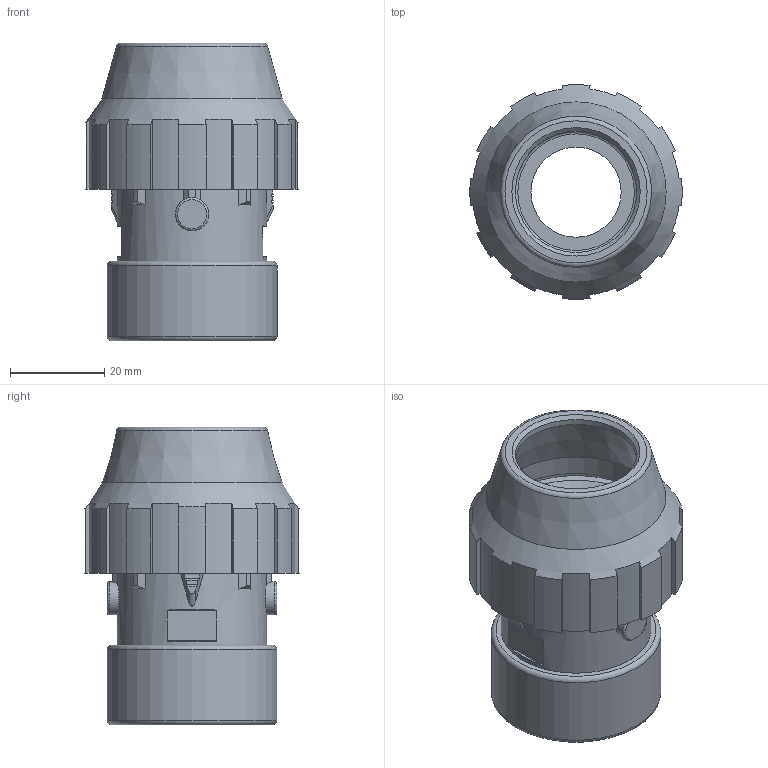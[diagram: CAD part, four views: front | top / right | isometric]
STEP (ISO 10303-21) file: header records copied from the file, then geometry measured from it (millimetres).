
FILE_DESCRIPTION( ( 'STEP AP214' ), '1' );
FILE_NAME( ' ', ' ', ( ' ' ), ( ' ' ), 'PSStep 11.0', 'VISI 17.0', ' ' );
FILE_SCHEMA( ( 'AUTOMOTIVE_DESIGN { 1 0 10303 214 1 1 1 1 }' ) );
Length unit declared in the file: millimetre
Products named in the file (6): 1; 2; 3; 4; 5; 6
Bounding box: 44.98 x 45.46 x 63.11 mm (x, y, z)
Volume: 26503.2 mm3; surface area: 27730.7 mm2
Topology: 6 solids, 6 shells, 193 faces, 493 edges, 322 vertices
Faces by surface type: plane 89, cylinder 74, torus 13, cone 9, bspline 8
Full cylindrical faces by diameter (mm): 7.042 x2, 19.109 x1, 24 x1, 25.7 x2, 30.291 x2, 31.751 x1, 33.249 x2, 36 x2, 37 x1, 40 x2
Entity records: 8790 total; most frequent: CARTESIAN_POINT 2623, DIRECTION 996, ORIENTED_EDGE 882, EDGE_CURVE 441, AXIS2_PLACEMENT_3D 404, VERTEX_POINT 305, EDGE_LOOP 246, FACE_OUTER_BOUND 218
